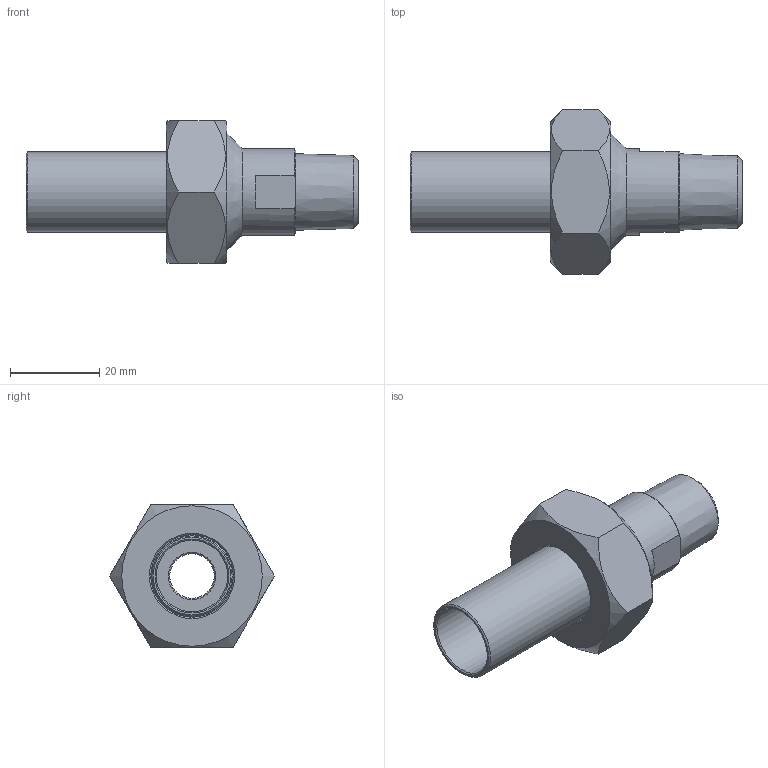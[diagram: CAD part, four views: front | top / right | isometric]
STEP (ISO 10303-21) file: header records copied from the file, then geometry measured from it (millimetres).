
FILE_DESCRIPTION(/* description */ (''),/* implementation_level */ '2;1');
FILE_NAME(/* name */ 'C:\Users\cad\Desktop\Zeichnungen neu von Ralph\Ganze Kupplungen\3D_Kupplung-R666-PE-UG\3D_R666-PE-UG-18-DN20-DN10_1711309515.stp',/* time_stamp */ '2021-07-16T10:36:03+02:00',/* author */ ('cad'),/* organization */ (''),/* preprocessor_version */ 'ST-DEVELOPER v18.1',/* originating_system */ 'Autodesk Inventor 2022',/* authorisation */ '');
FILE_SCHEMA (('AUTOMOTIVE_DESIGN { 1 0 10303 214 3 1 1 }'));
Length unit declared in the file: millimetre
Products named in the file (4): 3D_R666-PE-UG-18-DN20-DN10_1711309515; 3D_R666-M-DN20_17113920; 3D_R666-UG-DN10-DN20_17113615; 3D_R666-PE-18-DN20_17113463
Assembly tree (3 placements, depth 2):
  3D_R666-PE-UG-18-DN20-DN10_1711309515
    3D_R666-M-DN20_17113920
    3D_R666-UG-DN10-DN20_17113615
    3D_R666-PE-18-DN20_17113463
Bounding box: 74.5 x 36.95 x 32 mm (x, y, z)
Volume: 17330.1 mm3; surface area: 11956.6 mm2
Topology: 3 solids, 3 shells, 47 faces, 108 edges, 70 vertices
Faces by surface type: plane 19, cone 18, cylinder 8, torus 2
Full cylindrical faces by diameter (mm): 10 x1, 16 x1, 18 x1, 18.5 x1, 19.5 x1, 23.5 x1, 24.117 x1, 26.4 x1
Entity records: 1487 total; most frequent: CARTESIAN_POINT 264, DIRECTION 254, ORIENTED_EDGE 216, EDGE_CURVE 108, AXIS2_PLACEMENT_3D 108, VERTEX_POINT 70, EDGE_LOOP 56, CIRCLE 54
